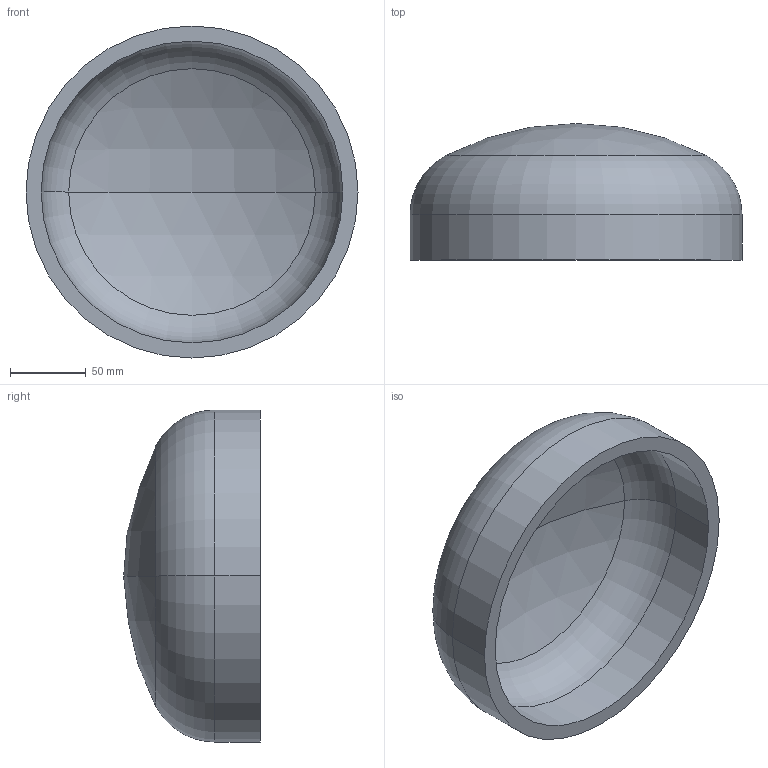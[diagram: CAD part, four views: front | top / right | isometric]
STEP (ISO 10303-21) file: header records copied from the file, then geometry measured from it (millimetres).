
FILE_DESCRIPTION (( 'STEP AP203' ), '1' );
FILE_NAME ('DIN 28013 Korbbogenform_-_Boden DIN 28013 - 219,1 x 30 - I - s=10.step', '2016-07-01T07:42:26', ( '' ), ( '' ), 'SwSTEP 2.0', 'SolidWorks 2013', '' );
FILE_SCHEMA (( 'CONFIG_CONTROL_DESIGN' ));
Length unit declared in the file: millimetre
Products named in the file (1): DIN 28013 Korbbogenform_-_Boden DIN 28013 - 219,1 x 30 - I - s=10
Bounding box: 219.1 x 90.16 x 219.1 mm (x, y, z)
Volume: 690219.1 mm3; surface area: 144822.3 mm2
Topology: 1 solids, 1 shells, 13 faces, 24 edges, 14 vertices
Faces by surface type: torus 4, cylinder 4, sphere 4, plane 1
Entity records: 407 total; most frequent: DIRECTION 72, CARTESIAN_POINT 52, ORIENTED_EDGE 48, AXIS2_PLACEMENT_3D 34, EDGE_CURVE 24, CIRCLE 20, VERTEX_POINT 14, EDGE_LOOP 14
